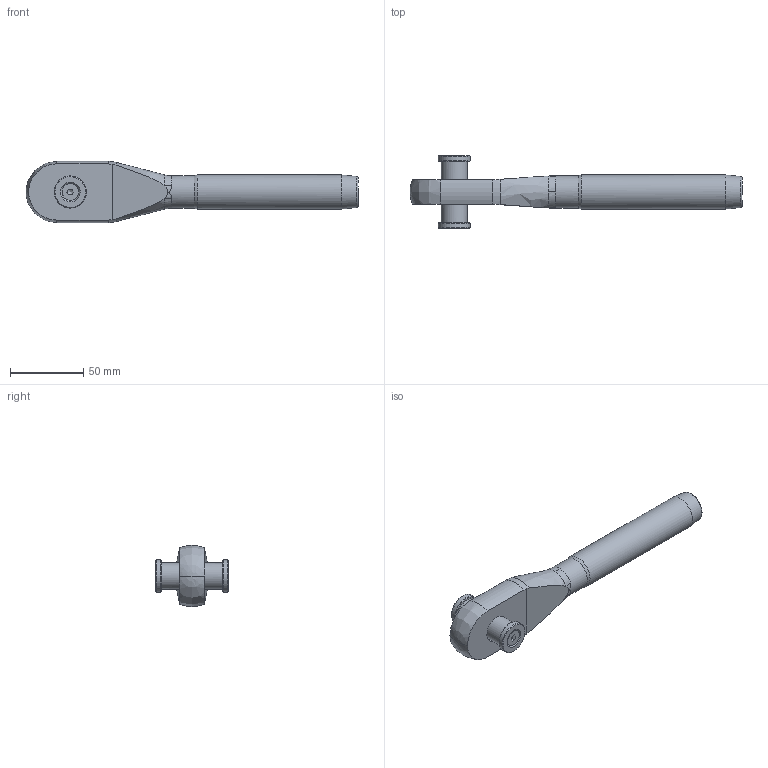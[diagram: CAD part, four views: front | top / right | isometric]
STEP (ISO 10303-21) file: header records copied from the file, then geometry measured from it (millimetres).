
FILE_DESCRIPTION(/* description */ (''),/* implementation_level */ '2;1');
FILE_NAME(/* name */ 'MCC 12_1,4418',/* time_stamp */ '2023-05-23T15:40:31+02:00',/* author */ (''),/* organization */ (''),/* preprocessor_version */ 'ST-DEVELOPER v16.5',/* originating_system */ 'Rhino 7.22',/* authorisation */ '');
FILE_SCHEMA (('CONFIG_CONTROL_DESIGN'));
Length unit declared in the file: millimetre
Products named in the file (1): Document
Bounding box: 227 x 49.79 x 42 mm (x, y, z)
Volume: 122053.7 mm3; surface area: 26264 mm2
Topology: 6 solids, 6 shells, 74 faces, 203 edges, 135 vertices
Faces by surface type: bspline 31, plane 27, cylinder 16
Full cylindrical faces by diameter (mm): 4.917 x2, 6 x2, 6.5 x2, 11.34 x2, 18 x1, 19 x1, 22 x2, 22.2 x1, 23.3 x1
Entity records: 3230 total; most frequent: CARTESIAN_POINT 1975, ORIENTED_EDGE 386, EDGE_CURVE 193, VERTEX_POINT 135, EDGE_LOOP 84, ADVANCED_FACE 74, FACE_OUTER_BOUND 74, B_SPLINE_CURVE_WITH_KNOTS 64
